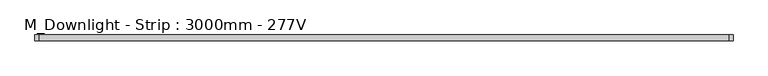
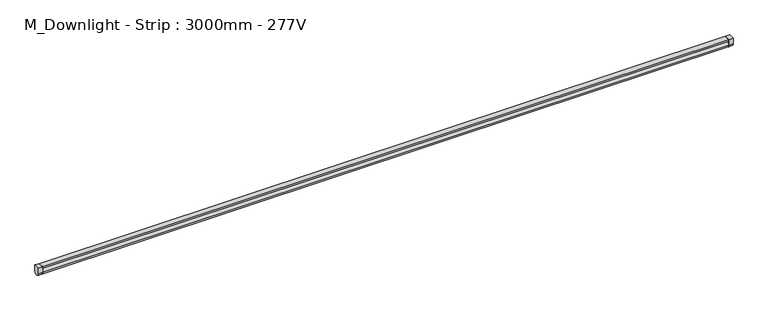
"""IFC4 building model written with IfcOpenShell, lengths in millimetres: light fixture geometry, M_Downlight - Strip : 3000mm - 277V."""

import ifcopenshell
import ifcopenshell.guid

model = None  # the IFC model being written
_history = None  # IfcOwnerHistory: only IFC2X3 demands one
_inside = {}  # id of a spatial element -> (the spatial element, [elements in it])
_under = {}  # id of a project, library or spatial element -> (it, [spatial elements below it])
_declared = {}  # id of a project -> (the project, [libraries it declares])
_typed = {}  # id of a type object -> (the type object, [elements of that type])
_made_of = {}  # id of a material, layer set ... -> (it, [elements and type objects made of it])


def new_model(schema):
    """Start an empty IFC model of exactly this schema.

    Asked for "IFC4X3", IfcOpenShell would pick the latest addendum, in which some entities
    have other attributes; the version numbers below select the first issue.
    IFC2X3 requires an IfcOwnerHistory on every rooted entity: one is made here for all.
    """
    global model, _history
    if schema == "IFC4X3":
        model = ifcopenshell.file(schema_version=(4, 3, 0, 0))
    else:
        model = ifcopenshell.file(schema=schema)
    _inside.clear()
    _under.clear()
    _declared.clear()
    _typed.clear()
    _made_of.clear()
    _history = None
    if model.schema == "IFC2X3":
        org = make("IfcOrganization", Name="unknown")
        user = make(
            "IfcPersonAndOrganization",
            ThePerson=make("IfcPerson", FamilyName="unknown"),
            TheOrganization=org,
        )
        app = make(
            "IfcApplication",
            ApplicationDeveloper=org,
            Version="unknown",
            ApplicationFullName="unknown",
            ApplicationIdentifier="unknown",
        )
        _history = make(
            "IfcOwnerHistory",
            OwningUser=user,
            OwningApplication=app,
            ChangeAction="ADDED",
            CreationDate=0,
        )
    return model


def make(cls, **values):
    """One entity of the class cls with the attributes given. An attribute that is None is left unset."""
    return model.create_entity(
        cls, **{name: value for name, value in values.items() if value is not None}
    )


def rooted(cls, **values):
    """An entity with a GlobalId (a new one), such as an element, a storey or a relation."""
    return make(cls, GlobalId=ifcopenshell.guid.new(), OwnerHistory=_history, **values)


def si_unit(unit_type, name, prefix=None):
    """IfcSIUnit, for example si_unit("LENGTHUNIT", "METRE", prefix="MILLI")."""
    return make("IfcSIUnit", UnitType=unit_type, Prefix=prefix, Name=name)


def assignment(units):
    """IfcUnitAssignment: the units of a project."""
    return None if units is None else make("IfcUnitAssignment", Units=units)


def point(xyz):
    """IfcCartesianPoint."""
    return None if xyz is None else make("IfcCartesianPoint", Coordinates=xyz)


def direction(xyz):
    """IfcDirection."""
    return None if xyz is None else make("IfcDirection", DirectionRatios=xyz)


def frame(location, z_axis=None, x_axis=None):
    """IfcAxis2Placement3D, a coordinate frame: its origin and axes. An axis left out is left unset."""
    return make(
        "IfcAxis2Placement3D",
        Location=point(location),
        Axis=direction(z_axis),
        RefDirection=direction(x_axis),
    )


def frame_2d(location, x_axis=None):
    """IfcAxis2Placement2D, a coordinate frame in the plane: its origin and x axis."""
    return make(
        "IfcAxis2Placement2D", Location=point(location), RefDirection=direction(x_axis)
    )


def origin():
    """The frame at (0, 0, 0) with its axes left unset."""
    return frame((0.0, 0.0, 0.0))


def place(relative_to, where):
    """IfcLocalPlacement: puts the frame where relative to a parent placement (None: the world)."""
    return make(
        "IfcLocalPlacement", PlacementRelTo=relative_to, RelativePlacement=where
    )


def context(
    kind, dimensions, precision=None, world=None, true_north=None, identifier=None
):
    """IfcGeometricRepresentationContext, for example the 3D "Model" context."""
    return make(
        "IfcGeometricRepresentationContext",
        ContextIdentifier=identifier,
        ContextType=kind,
        CoordinateSpaceDimension=dimensions,
        Precision=precision,
        WorldCoordinateSystem=world,
        TrueNorth=true_north,
    )


def project(units=None, contexts=None):
    """IfcProject with its units and contexts."""
    return rooted(
        "IfcProject",
        Name="project",
        RepresentationContexts=contexts,
        UnitsInContext=assignment(units),
    )


def spatial(cls, under=None, at=None, **own):
    """A site, building, storey or space (cls), placed at a placement, below another one or the project."""
    s = rooted(cls, ObjectPlacement=at, **own)
    if under is not None:
        _under.setdefault(under.id(), (under, []))[1].append(s)
    return s


def polyline(points):
    """IfcPolyline through the points."""
    return make("IfcPolyline", Points=[point(p) for p in points])


def circle_curve(where, radius):
    """IfcCircle in the frame where."""
    return make("IfcCircle", Position=where, Radius=radius)


def trimmed(basis, trim1, trim2, sense, master):
    """IfcTrimmedCurve: the piece of a basis curve between two trims."""
    return make(
        "IfcTrimmedCurve",
        BasisCurve=basis,
        Trim1=trim1,
        Trim2=trim2,
        SenseAgreement=sense,
        MasterRepresentation=master,
    )


def segment(curve, same_sense, transition):
    """IfcCompositeCurveSegment."""
    return make(
        "IfcCompositeCurveSegment",
        Transition=transition,
        SameSense=same_sense,
        ParentCurve=curve,
    )


def composite_curve(segments, self_intersect=None):
    """IfcCompositeCurve: segments joined end to end."""
    return make("IfcCompositeCurve", Segments=segments, SelfIntersect=self_intersect)


def outline(outer, holes=None, kind="AREA"):
    """IfcArbitraryClosedProfileDef: a profile drawn as a closed curve; with holes, ...WithVoids."""
    if holes is None:
        return make("IfcArbitraryClosedProfileDef", ProfileType=kind, OuterCurve=outer)
    return make(
        "IfcArbitraryProfileDefWithVoids",
        ProfileType=kind,
        OuterCurve=outer,
        InnerCurves=holes,
    )


def extrude(swept, where, along, depth):
    """IfcExtrudedAreaSolid: the profile swept, set in the frame where, extruded along a direction by depth."""
    return make(
        "IfcExtrudedAreaSolid",
        SweptArea=swept,
        Position=where,
        ExtrudedDirection=direction(along),
        Depth=depth,
    )


def shape(context_of_items, identifier, shape_type, items):
    """IfcShapeRepresentation: the items that make up one representation, for example the "Body"."""
    return make(
        "IfcShapeRepresentation",
        ContextOfItems=context_of_items,
        RepresentationIdentifier=identifier,
        RepresentationType=shape_type,
        Items=items,
    )


def source(mapping_origin, context_of_items, identifier, shape_type, items):
    """IfcRepresentationMap: a shape defined once, which mapped items show again and again."""
    return make(
        "IfcRepresentationMap",
        MappingOrigin=mapping_origin,
        MappedRepresentation=shape(context_of_items, identifier, shape_type, items),
    )


def transform(
    local_origin,
    x_axis=None,
    y_axis=None,
    z_axis=None,
    scale=None,
    scale2=None,
    scale3=None,
    uniform=True,
):
    """IfcCartesianTransformationOperator3D, or its non-uniform kind. x_axis, y_axis, z_axis: its Axis1, 2, 3."""
    if uniform:
        return make(
            "IfcCartesianTransformationOperator3D",
            Axis1=direction(x_axis),
            Axis2=direction(y_axis),
            LocalOrigin=point(local_origin),
            Scale=scale,
            Axis3=direction(z_axis),
        )
    return make(
        "IfcCartesianTransformationOperator3DnonUniform",
        Axis1=direction(x_axis),
        Axis2=direction(y_axis),
        LocalOrigin=point(local_origin),
        Scale=scale,
        Axis3=direction(z_axis),
        Scale2=scale2,
        Scale3=scale3,
    )


def mapped(mapping_source, mapping_target):
    """IfcMappedItem: shows the shape of a source again, moved by a transform."""
    return make(
        "IfcMappedItem", MappingSource=mapping_source, MappingTarget=mapping_target
    )


def made_of(thing, what):
    """Note that an element or type object is made of a material, layer set ...; save() writes the relation."""
    if what is not None:
        _made_of.setdefault(what.id(), (what, []))[1].append(thing)
    return thing


def element(
    cls,
    number,
    at=None,
    inside=None,
    cuts=None,
    type_object=None,
    material=None,
    context=None,
    identifier="Body",
    shape_type=None,
    held_by="IfcProductDefinitionShape",
    body=None,
    shapes=None,
    **own,
):
    """One element of the class cls, such as IfcWall. Its Tag is "e" and its number.

    at: its placement. inside: the storey or other place that contains it. cuts: it is an
    opening in that element (IfcRelVoidsElement). A single representation is given by context,
    identifier, shape_type and body (its items); several are given by shapes. held_by: the class
    of the entity that holds the representations. save() writes the other relations.
    """
    e = rooted(cls, Tag="e%d" % number, ObjectPlacement=at, **own)
    if body is not None:
        shapes = [shape(context, identifier, shape_type, body)]
    if shapes is not None:
        e.Representation = make(held_by, Representations=shapes)
    if inside is not None:
        _inside.setdefault(inside.id(), (inside, []))[1].append(e)
    if cuts is not None:
        rooted(
            "IfcRelVoidsElement", RelatingBuildingElement=cuts, RelatedOpeningElement=e
        )
    if type_object is not None:
        _typed.setdefault(type_object.id(), (type_object, []))[1].append(e)
    return made_of(e, material)


def aggregate(whole, parts):
    """IfcRelAggregates: a whole, such as a stair, and the parts it consists of."""
    return rooted("IfcRelAggregates", RelatingObject=whole, RelatedObjects=parts)


def save(model, path):
    """Write the relations noted so far, then the file.

    IfcRelAggregates (storeys below a building ...), IfcRelContainedInSpatialStructure (elements
    in a storey), IfcRelDefinesByType, IfcRelAssociatesMaterial and IfcRelDeclares: one each for
    every whole, place, type object, material and project.
    """
    for whole, parts in _under.values():
        aggregate(whole, parts)
    for where, things in _inside.values():
        rooted(
            "IfcRelContainedInSpatialStructure",
            RelatedElements=things,
            RelatingStructure=where,
        )
    for kind, things in _typed.values():
        rooted("IfcRelDefinesByType", RelatedObjects=things, RelatingType=kind)
    for what, things in _made_of.values():
        rooted("IfcRelAssociatesMaterial", RelatedObjects=things, RelatingMaterial=what)
    for by, libraries in _declared.values():
        rooted("IfcRelDeclares", RelatingContext=by, RelatedDefinitions=libraries)
    model.write(path)


def m_downlight_strip_3000mm_277v_9fad74d4(model_context):
    return source(origin(), model_context, "Body", "SweptSolid", [
        extrude(outline(polyline([(1480.95, -205.9435765), (1480.95, -231.3435765), (-1480.95, -231.3435765), (-1480.95, -205.9435765), (1480.95, -205.9435765)])), frame((0.0, 0.0, 1343.65), z_axis=(0.0, 0.0, 1.0), x_axis=(1.0, 0.0, 0.0)), (0.0, 0.0, 1.0), 6.35),
        extrude(outline(composite_curve([segment(trimmed(circle_curve(frame_2d((-218.6435765, 1324.6)), 12.7), [point((-205.9435765, 1324.6))], [point((-231.3435765, 1324.6))], False, "CARTESIAN"), True, "CONTINUOUS"), segment(polyline([(-231.3435765, 1324.6), (-231.3435765, 1350.0), (-205.9435765, 1350.0), (-205.9435765, 1324.6)]), True, "CONTINUOUS")], self_intersect=False)), frame((-1500.0, 0.0, 0.0), z_axis=(1.0, 0.0, 0.0), x_axis=(0.0, 1.0, 0.0)), (0.0, 0.0, 1.0), 19.05),
        extrude(outline(composite_curve([segment(trimmed(circle_curve(frame_2d((-218.6435765, 1324.6)), 12.7), [point((-205.9435765, 1324.6))], [point((-231.3435765, 1324.6))], False, "CARTESIAN"), True, "CONTINUOUS"), segment(polyline([(-231.3435765, 1324.6), (-231.3435765, 1350.0), (-205.9435765, 1350.0), (-205.9435765, 1324.6)]), True, "CONTINUOUS")], self_intersect=False)), frame((1480.95, 0.0, 0.0), z_axis=(1.0, 0.0, 0.0), x_axis=(0.0, 1.0, 0.0)), (0.0, 0.0, 1.0), 19.05),
        extrude(outline(composite_curve([segment(trimmed(circle_curve(frame_2d((-218.6435765, 1324.6)), 12.7), [point((-231.3435765, 1324.6))], [point((-205.9435765, 1324.6))], False, "CARTESIAN"), True, "CONTINUOUS"), segment(trimmed(circle_curve(frame_2d((-218.6435765, 1324.6)), 12.7), [point((-205.9435765, 1324.6))], [point((-231.3435765, 1324.6))], False, "CARTESIAN"), True, "CONTINUOUS")], self_intersect=False)), frame((-1480.95, 0.0, 0.0), z_axis=(1.0, 0.0, 0.0), x_axis=(0.0, 1.0, 0.0)), (0.0, 0.0, 1.0), 2961.9),
    ])


if __name__ == "__main__":
    model = new_model("IFC4")
    model_context = context("Model", 3, world=origin())
    ifc_project = project(units=[si_unit("LENGTHUNIT", "METRE", prefix="MILLI")], contexts=[model_context])
    site = spatial("IfcSite", under=ifc_project)
    building = spatial("IfcBuilding", under=site)
    placement = place(None, origin())
    m_downlight_strip_3000mm_277v_shape = m_downlight_strip_3000mm_277v_9fad74d4(model_context)
    element("IfcLightFixture", 1, ObjectType="M_Downlight - Strip : 3000mm - 277V", at=placement, inside=building, context=model_context, shape_type="MappedRepresentation", body=[
        mapped(m_downlight_strip_3000mm_277v_shape, transform((0.0, 0.0, 0.0), x_axis=(1.0, 0.0, 0.0), y_axis=(0.0, 1.0, 0.0), z_axis=(0.0, 0.0, 1.0))),
    ])
    save(model, "model.ifc")
